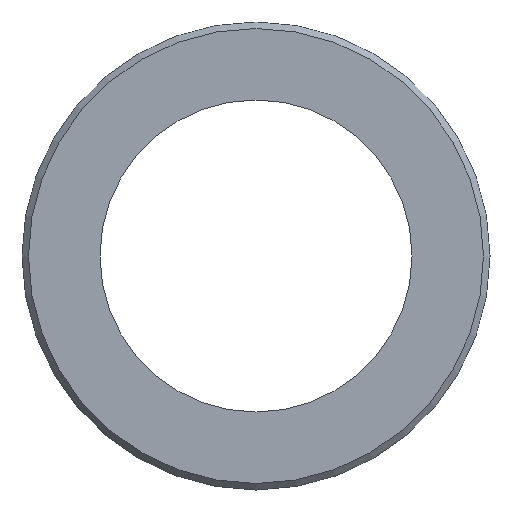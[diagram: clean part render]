
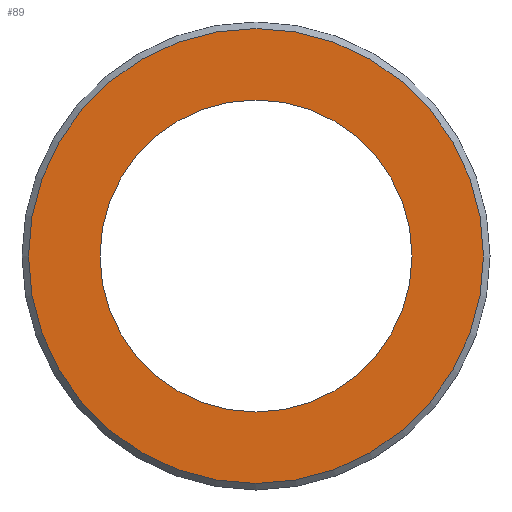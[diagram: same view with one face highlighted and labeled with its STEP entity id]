
A CAD part, front view. The second image highlights one B-rep face of the part: STEP entity #89.
In plain terms, the highlighted planar face has unit normal (0, -1, 0).
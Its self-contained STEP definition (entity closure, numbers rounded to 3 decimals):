
#15=FACE_BOUND('',#30,.T.);
#17=PLANE('',#112);
#23=FACE_OUTER_BOUND('',#29,.T.);
#29=EDGE_LOOP('',(#73));
#30=EDGE_LOOP('',(#74));
#44=CIRCLE('',#109,8.75);
#46=CIRCLE('',#113,6.);
#50=VERTEX_POINT('',#153);
#52=VERTEX_POINT('',#161);
#57=EDGE_CURVE('',#50,#50,#44,.T.);
#60=EDGE_CURVE('',#52,#52,#46,.T.);
#73=ORIENTED_EDGE('',*,*,#57,.F.);
#74=ORIENTED_EDGE('',*,*,#60,.F.);
#89=ADVANCED_FACE('',(#23,#15),#17,.F.);
#109=AXIS2_PLACEMENT_3D('',#155,#126,#127);
#112=AXIS2_PLACEMENT_3D('',#160,#133,#134);
#113=AXIS2_PLACEMENT_3D('',#162,#135,#136);
#126=DIRECTION('center_axis',(0.,1.,0.));
#127=DIRECTION('ref_axis',(1.,0.,0.));
#133=DIRECTION('center_axis',(0.,1.,0.));
#134=DIRECTION('ref_axis',(1.,0.,0.));
#135=DIRECTION('center_axis',(0.,-1.,0.));
#136=DIRECTION('ref_axis',(1.,0.,0.));
#153=CARTESIAN_POINT('',(-8.75,0.,0.));
#155=CARTESIAN_POINT('Origin',(0.,0.,0.));
#160=CARTESIAN_POINT('Origin',(0.,0.,0.));
#161=CARTESIAN_POINT('',(-6.,0.,0.));
#162=CARTESIAN_POINT('Origin',(0.,0.,0.));
